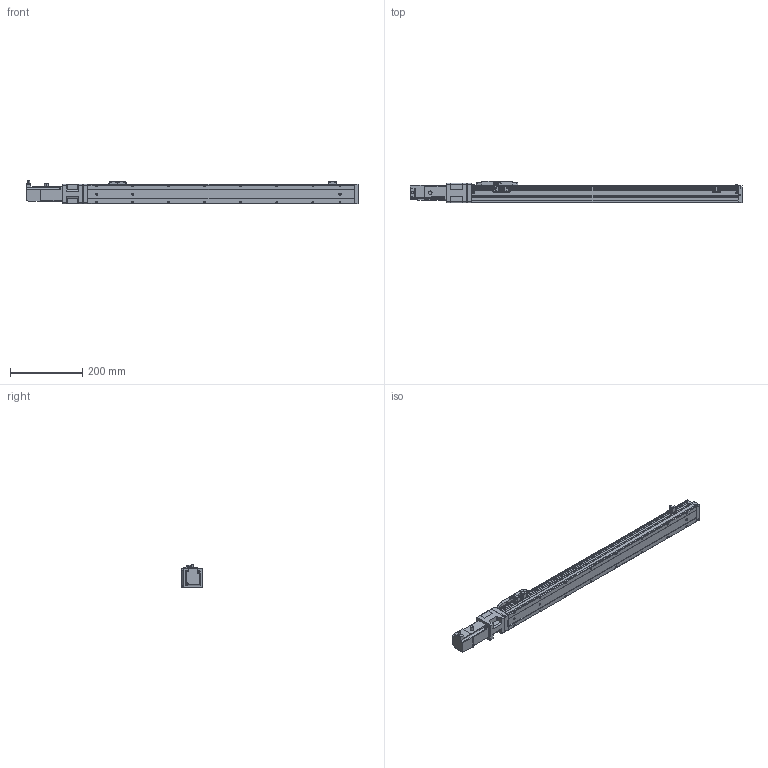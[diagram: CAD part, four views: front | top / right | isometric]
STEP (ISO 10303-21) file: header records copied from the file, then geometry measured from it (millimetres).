
FILE_DESCRIPTION (( 'STEP AP203' ), '1' );
FILE_NAME ('CTH5-L10-S600-BC-C10(¼ò).STEP', '2023-02-04T02:07:28', ( '' ), ( '' ), 'SwSTEP 2.0', 'SolidWorks 2018', '' );
FILE_SCHEMA (( 'CONFIG_CONTROL_DESIGN' ));
Length unit declared in the file: millimetre
Products named in the file (21): CTH5覜茼え; M3｡｣; CTH5賑怢; 内六角圆柱头螺钉M3-2; CTH5綴耜啣; CTH5耜晚蹟隊; PM-Y45; CTH5-L10-S600-BC-C10(潠); T10-p1; CTH5菁釱-L740; 100W萇儂; CTH5萇儂釱; CTH5耜晚蹟隊-1; 嫖萇羲壽郪磁1; CTH5-BC-03; 葩璃 蚾饜极13^CTH8-L10-S50-BM-C40(潠)1; hex nuts, style 1-grades ab gb_GB_FASTENER_NUT_SNAB1 M3-N; M3; CTH5萇儂釱欶; CTH嫖萇羲壽假蚾啣; CTH5ヶ耜啣(潠)
Assembly tree (37 placements, depth 3):
  CTH5-L10-S600-BC-C10(潠)
    CTH5綴耜啣
    CTH5賑怢
    CTH5ヶ耜啣(潠)
    CTH5菁釱-L740
    CTH5耜晚蹟隊  x2
    CTH5萇儂釱
      CTH5-BC-03
    CTH5萇儂釱欶
    100W萇儂
      T10-p1
    嫖萇羲壽郪磁1  x2
      CTH嫖萇羲壽假蚾啣
      PM-Y45
      M3｡｣
      内六角圆柱头螺钉M3-2
      hex nuts, style 1-grades ab gb_GB_FASTENER_NUT_SNAB1 M3-N
    CTH5覜茼え
    葩璃 蚾饜极13^CTH8-L10-S50-BM-C40(潠)1
      CTH嫖萇羲壽假蚾啣
      PM-Y45
      内六角圆柱头螺钉M3-2  x2
      M3｡｣  x2
      hex nuts, style 1-grades ab gb_GB_FASTENER_NUT_SNAB1 M3-N  x2
    M3  x2
    CTH5耜晚蹟隊-1  x4
Bounding box: 921.1 x 60 x 65.7 mm (x, y, z)
Volume: 1922769.9 mm3; surface area: 274713.1 mm2
Topology: 40 solids, 40 shells, 1539 faces, 3846 edges, 2478 vertices
Faces by surface type: plane 848, cylinder 446, cone 183, torus 44, bspline 18
Entity records: 34647 total; most frequent: CARTESIAN_POINT 6360, DIRECTION 5482, ORIENTED_EDGE 5240, EDGE_CURVE 2620, AXIS2_PLACEMENT_3D 1895, VECTOR 1692, LINE 1692, VERTEX_POINT 1684
